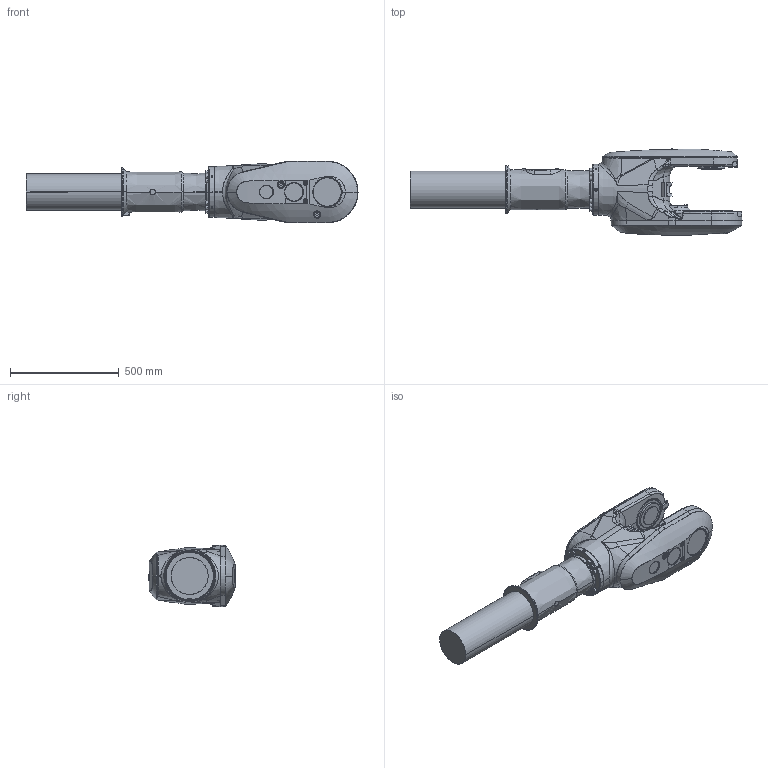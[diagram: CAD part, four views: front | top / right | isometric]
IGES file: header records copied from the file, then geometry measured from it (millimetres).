
Start section: SolidWorks IGES file using analytic representation for surfaces
Global section: file name: C:\DATA\SAP_DOC\LW\IRB 6720\IRB6720-LID-MH_200kg-280_OC_01_SW_J\export\IRB6720-LID-MH_200kg-280_OC_01_IGES_J\IRB6720-LID_200kg-280_OC_00_LINK04_CAD.igs; native system: SolidWorks 2024; preprocessor: SolidWorks 2024; author: SEJOVAS3; date: 260526.091359; units: millimetre
Bounding box: 1527.5 x 396.47 x 284 mm (x, y, z)
Surface area: 1408708 mm2 (no closed solid volume)
Topology: 0 solids, 0 shells, 722 faces, 13325 edges, 13300 vertices
Faces by surface type: bspline 422, revolution 300
